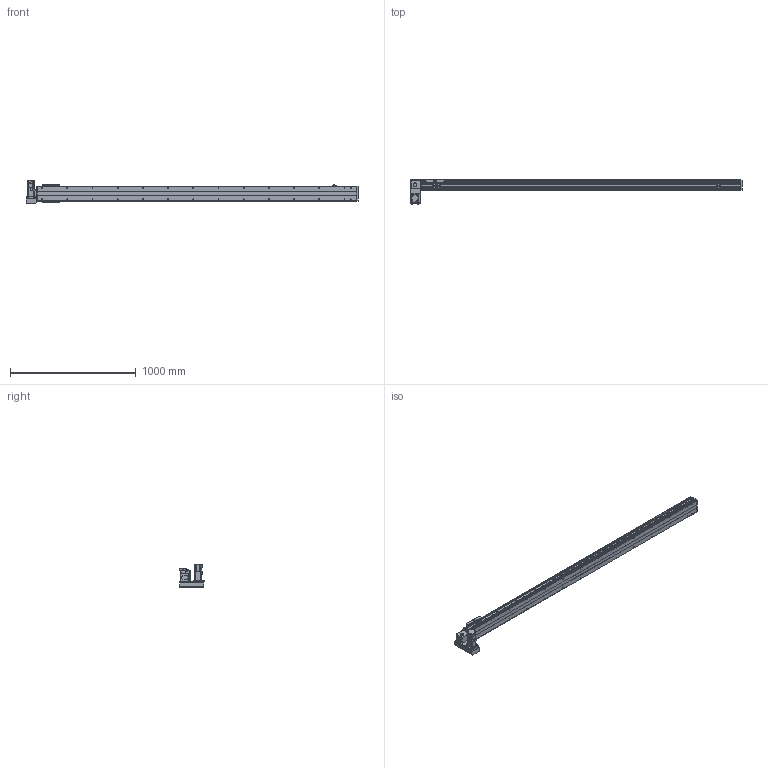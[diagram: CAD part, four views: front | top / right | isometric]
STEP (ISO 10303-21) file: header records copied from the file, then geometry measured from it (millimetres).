
FILE_DESCRIPTION( ( 'STEP AP214' ), '1' );
FILE_NAME( 'x:/temp/worker_6/temp/exporttempdir_3468_14_KpaHn/format_0/PBS120-P40-S2250-LD-T40-C1-N(0).stp', '2022-06-08T08:13:40', ( 'License CC BY-ND 4.0' ), ( 'CADENAS' ), ' ', 'PARTsolutions', ' ' );
FILE_SCHEMA( ( 'AUTOMOTIVE_DESIGN { 1 0 10303 214 1 1 1 1 }' ) );
Length unit declared in the file: millimetre
Products named in the file (7): PBS120-P40-S2250-LD-T40-C1-N(0); _PBS120-S2250()_body; _PBS120T-LD_motors; _T40-p1; _PBS120_sliser; _PBS120_plant; _PBS120_sensor
Assembly tree (8 placements, depth 2):
  PBS120-P40-S2250-LD-T40-C1-N(0)
    _PBS120-S2250()_body
    _PBS120T-LD_motors
    _T40-p1
    _PBS120_sliser
    _PBS120_plant
    _PBS120_sensor  x3
Bounding box: 2636 x 196 x 189.7 mm (x, y, z)
Volume: 10029774.3 mm3; surface area: 2061607.6 mm2
Topology: 8 solids, 8 shells, 864 faces, 2216 edges, 1423 vertices
Faces by surface type: plane 561, cylinder 241, cone 60, torus 2
Full cylindrical faces by diameter (mm): 2.459 x6, 3.242 x4, 4 x2, 4.134 x4, 4.5 x10, 4.917 x32, 5.5 x11, 6 x2, 6.6 x1, 7 x2, 8.5 x4, 9 x4, 12 x1, 14 x1, 30 x2, 40 x1, 50 x2
Entity records: 28332 total; most frequent: DIRECTION 3884, CARTESIAN_POINT 3785, ORIENTED_EDGE 3574, EDGE_CURVE 1787, AXIS2_PLACEMENT_3D 1328, VERTEX_POINT 1229, LINE 1228, VECTOR 1228
